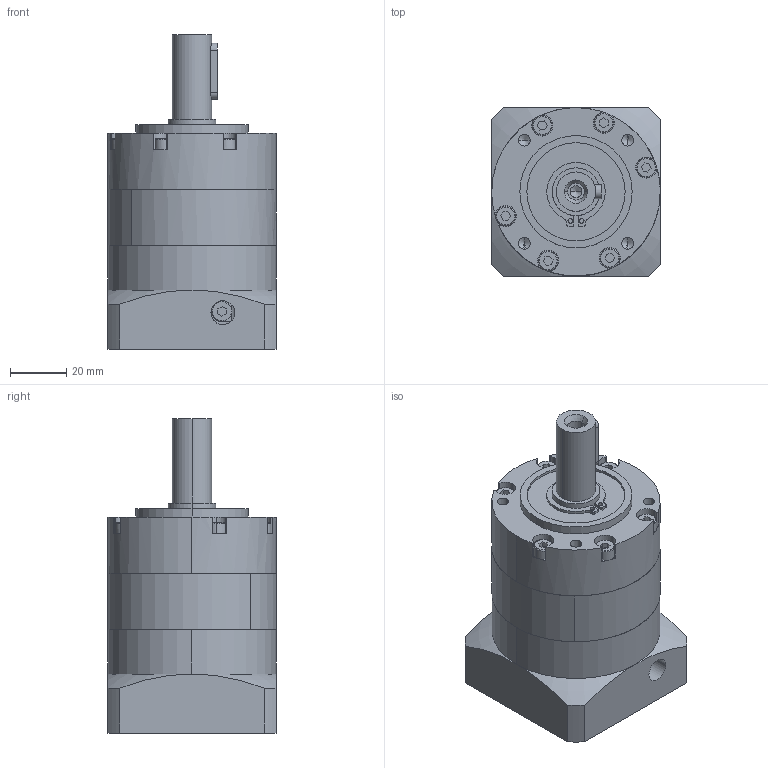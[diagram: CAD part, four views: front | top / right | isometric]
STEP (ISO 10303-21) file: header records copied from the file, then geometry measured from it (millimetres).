
FILE_DESCRIPTION (( 'STEP AP203' ), '1' );
FILE_NAME ('PLE060-L1-14-50-70.STEP', '2022-07-01T03:42:26', ( 'Windows User' ), ( 'P R C' ), 'SwSTEP 2.0', 'SolidWorks 2016', '' );
FILE_SCHEMA (( 'CONFIG_CONTROL_DESIGN' ));
Length unit declared in the file: millimetre
Products named in the file (8): GB／T276-94深沟球轴承61905-2RZ; PLE060-L1-14-50-70; 囀鞠褒蹟佪-M4℅12; PLE060 κｳﾝﾈｦ_ﾒｻｼｶﾄﾚｳﾝﾈｦ; PLE060 奻屳唳; PLE060 狟屳唳梓袧; PLE060-窣諉啣梓袧_1; 邧埴瑩 5x5x20
Assembly tree (7 placements, depth 2):
  PLE060-L1-14-50-70
    囀鞠褒蹟佪-M4℅12
    PLE060 κｳﾝﾈｦ_ﾒｻｼｶﾄﾚｳﾝﾈｦ
    PLE060 奻屳唳
    PLE060 狟屳唳梓袧
    PLE060-窣諉啣梓袧_1
    邧埴瑩 5x5x20
    GB／T276-94深沟球轴承61905-2RZ
Bounding box: 60 x 60 x 112 mm (x, y, z)
Volume: 205724.4 mm3; surface area: 64982.7 mm2
Topology: 7 solids, 7 shells, 1080 faces, 3021 edges, 1987 vertices
Faces by surface type: plane 552, cylinder 203, bspline 138, sphere 91, torus 70, cone 26
Entity records: 43428 total; most frequent: CARTESIAN_POINT 16040, ORIENTED_EDGE 5904, DIRECTION 5012, EDGE_CURVE 2952, VERTEX_POINT 1955, AXIS2_PLACEMENT_3D 1789, VECTOR 1434, LINE 1434
